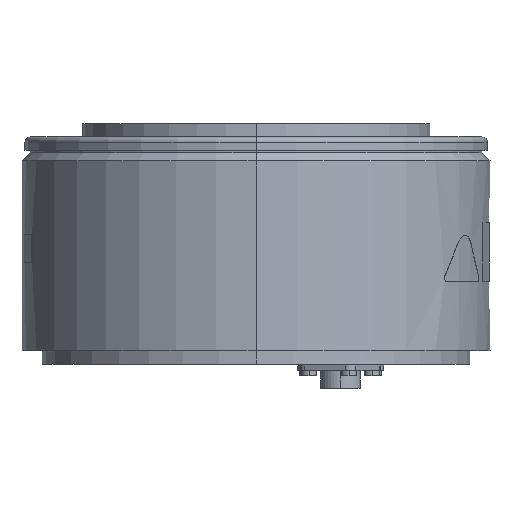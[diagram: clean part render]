
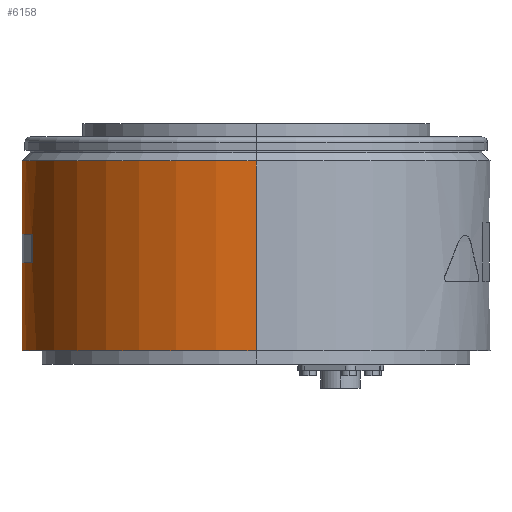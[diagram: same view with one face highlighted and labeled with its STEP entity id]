
A CAD part, left-side view. The second image highlights one B-rep face of the part: STEP entity #6158.
In plain terms, the highlighted cylindrical face has radius 87.5 mm (diameter 175 mm), a partial arc.
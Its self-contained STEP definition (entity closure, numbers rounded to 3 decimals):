
#344 = ORIENTED_EDGE ( 'NONE', *, *, #690, .F. ) ;
#690 = EDGE_CURVE ( 'NONE', #6136, #6141, #3064, .T. ) ;
#2988 = DIRECTION ( 'NONE',  ( -1., 0., 0. ) ) ;
#2990 = DIRECTION ( 'NONE',  ( 0., 0., -1. ) ) ;
#2991 = CARTESIAN_POINT ( 'NONE',  ( 0., 0., 5. ) ) ;
#3040 = AXIS2_PLACEMENT_3D ( 'NONE', #2991, #2990, #2988 ) ;
#3064 = CIRCLE ( 'NONE', #3040, 87.5 ) ;
#3686 = LINE ( 'NONE', #3747, #3746 ) ;
#3696 = AXIS2_PLACEMENT_3D ( 'NONE', #3742, #3732, #3731 ) ;
#3698 = CIRCLE ( 'NONE', #3696, 87.5 ) ;
#3731 = DIRECTION ( 'NONE',  ( -1., 0., 0. ) ) ;
#3732 = DIRECTION ( 'NONE',  ( 0., 0., -1. ) ) ;
#3733 = DIRECTION ( 'NONE',  ( 0., 0., -1. ) ) ;
#3734 = VECTOR ( 'NONE', #3733, 1000. ) ;
#3737 = DIRECTION ( 'NONE',  ( 0., 0., -1. ) ) ;
#3738 = VECTOR ( 'NONE', #3737, 1000. ) ;
#3739 = CARTESIAN_POINT ( 'NONE',  ( 25., 83.853, 0. ) ) ;
#3741 = LINE ( 'NONE', #3739, #3738 ) ;
#3742 = CARTESIAN_POINT ( 'NONE',  ( 0., 0., 76. ) ) ;
#3745 = DIRECTION ( 'NONE',  ( 0., 0., 1. ) ) ;
#3746 = VECTOR ( 'NONE', #3745, 1000. ) ;
#3747 = CARTESIAN_POINT ( 'NONE',  ( -25., 83.853, 0. ) ) ;
#3748 = CARTESIAN_POINT ( 'NONE',  ( -87.5, 0., 76. ) ) ;
#3749 = CARTESIAN_POINT ( 'NONE',  ( 87.5, 0., 0. ) ) ;
#3750 = LINE ( 'NONE', #3749, #3734 ) ;
#5242 = AXIS2_PLACEMENT_3D ( 'NONE', #5310, #5283, #5282 ) ;
#5252 = CARTESIAN_POINT ( 'NONE',  ( -25., 83.853, 38. ) ) ;
#5264 = LINE ( 'NONE', #5279, #5278 ) ;
#5278 = VECTOR ( 'NONE', #5317, 1000. ) ;
#5279 = CARTESIAN_POINT ( 'NONE',  ( -87.5, 0., 0. ) ) ;
#5282 = DIRECTION ( 'NONE',  ( 1., 0., 0. ) ) ;
#5283 = DIRECTION ( 'NONE',  ( 0., 0., -1. ) ) ;
#5310 = CARTESIAN_POINT ( 'NONE',  ( 0., 0., 48.5 ) ) ;
#5317 = DIRECTION ( 'NONE',  ( 0., 0., -1. ) ) ;
#5322 = CIRCLE ( 'NONE', #5242, 87.5 ) ;
#5348 = CARTESIAN_POINT ( 'NONE',  ( -25., 83.853, 48.5 ) ) ;
#5359 = CARTESIAN_POINT ( 'NONE',  ( 25., 83.853, 48.5 ) ) ;
#5360 = CARTESIAN_POINT ( 'NONE',  ( 87.5, 0., 76. ) ) ;
#5366 = CARTESIAN_POINT ( 'NONE',  ( 87.5, 0., 5. ) ) ;
#5369 = CARTESIAN_POINT ( 'NONE',  ( -87.5, 0., 5. ) ) ;
#6098 = VERTEX_POINT ( 'NONE', #5252 ) ;
#6113 = EDGE_LOOP ( 'NONE', ( #6160, #6151, #6847, #6853 ) ) ;
#6118 = EDGE_CURVE ( 'NONE', #6149, #6139, #5322, .T. ) ;
#6120 = EDGE_CURVE ( 'NONE', #6849, #6136, #5264, .T. ) ;
#6136 = VERTEX_POINT ( 'NONE', #5369 ) ;
#6138 = VERTEX_POINT ( 'NONE', #5360 ) ;
#6139 = VERTEX_POINT ( 'NONE', #5359 ) ;
#6141 = VERTEX_POINT ( 'NONE', #5366 ) ;
#6148 = ORIENTED_EDGE ( 'NONE', *, *, #6857, .T. ) ;
#6149 = VERTEX_POINT ( 'NONE', #5348 ) ;
#6151 = ORIENTED_EDGE ( 'NONE', *, *, #6152, .F. ) ;
#6152 = EDGE_CURVE ( 'NONE', #6159, #6098, #7446, .T. ) ;
#6158 = ADVANCED_FACE ( 'NONE', ( #7471, #7473 ), #7490, .T. ) ;
#6159 = VERTEX_POINT ( 'NONE', #7459 ) ;
#6160 = ORIENTED_EDGE ( 'NONE', *, *, #6846, .F. ) ;
#6846 = EDGE_CURVE ( 'NONE', #6098, #6149, #3686, .T. ) ;
#6847 = ORIENTED_EDGE ( 'NONE', *, *, #6848, .F. ) ;
#6848 = EDGE_CURVE ( 'NONE', #6139, #6159, #3741, .T. ) ;
#6849 = VERTEX_POINT ( 'NONE', #3748 ) ;
#6851 = EDGE_CURVE ( 'NONE', #6849, #6138, #3698, .T. ) ;
#6852 = ORIENTED_EDGE ( 'NONE', *, *, #6120, .F. ) ;
#6853 = ORIENTED_EDGE ( 'NONE', *, *, #6118, .F. ) ;
#6854 = EDGE_LOOP ( 'NONE', ( #6855, #6148, #344, #6852 ) ) ;
#6855 = ORIENTED_EDGE ( 'NONE', *, *, #6851, .T. ) ;
#6857 = EDGE_CURVE ( 'NONE', #6138, #6141, #3750, .T. ) ;
#7434 = DIRECTION ( 'NONE',  ( 0., 0., 1. ) ) ;
#7445 = DIRECTION ( 'NONE',  ( -1., 0., 0. ) ) ;
#7446 = CIRCLE ( 'NONE', #7450, 87.5 ) ;
#7450 = AXIS2_PLACEMENT_3D ( 'NONE', #7454, #7434, #7445 ) ;
#7454 = CARTESIAN_POINT ( 'NONE',  ( 0., 0., 38. ) ) ;
#7457 = DIRECTION ( 'NONE',  ( -1., 0., 0. ) ) ;
#7458 = DIRECTION ( 'NONE',  ( 0., 0., -1. ) ) ;
#7459 = CARTESIAN_POINT ( 'NONE',  ( 25., 83.853, 38. ) ) ;
#7471 = FACE_BOUND ( 'NONE', #6113, .T. ) ;
#7473 = FACE_OUTER_BOUND ( 'NONE', #6854, .T. ) ;
#7474 = CARTESIAN_POINT ( 'NONE',  ( 0., 0., 0. ) ) ;
#7479 = AXIS2_PLACEMENT_3D ( 'NONE', #7474, #7458, #7457 ) ;
#7490 = CYLINDRICAL_SURFACE ( 'NONE', #7479, 87.5 ) ;
